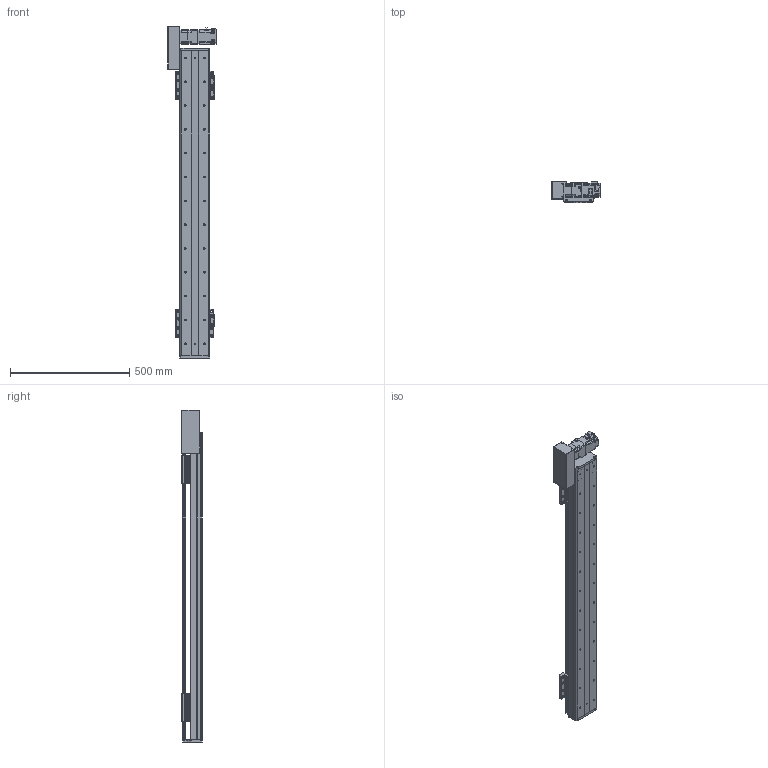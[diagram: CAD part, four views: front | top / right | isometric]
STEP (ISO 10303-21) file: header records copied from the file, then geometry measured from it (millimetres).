
FILE_DESCRIPTION(/* description */ (''),/* implementation_level */ '2;1');
FILE_NAME(/* name */ 'C:\Users\PC\Desktop\3D도면\STEP\DSB125-L2G-W1000-R.stp',/* time_stamp */ '2018-06-13T10:17:10+09:00',/* author */ ('PC'),/* organization */ (''),/* preprocessor_version */ 'ST-DEVELOPER v16.5',/* originating_system */ 'Autodesk Inventor 2017',/* authorisation */ '');
FILE_SCHEMA (('AUTOMOTIVE_DESIGN { 1 0 10303 214 3 1 1 }'));
Length unit declared in the file: millimetre
Products named in the file (12): DSB125-L-300ST; DSR125-BASE(S-TYPE); DSR125-REAR COVER-R01(170203); DSR125-REAR COVER-R01(170203)_1; DSR125-UP COVER-R01(170203); DSR125-TABLE(MSA15X); hg-kr23_; ab0601-p0401200402; 13-BELT COVER; DSR126-SENSOR DOG; pm-y65_step; SENSOR BRACKET(EE-SX674A)
Assembly tree (16 placements, depth 2):
  DSB125-L-300ST
    DSR125-BASE(S-TYPE)
    DSR125-REAR COVER-R01(170203)
    DSR125-REAR COVER-R01(170203)_1
    DSR125-UP COVER-R01(170203)
    DSR125-TABLE(MSA15X)  x2
    hg-kr23_
    ab0601-p0401200402
    13-BELT COVER
    DSR126-SENSOR DOG
    pm-y65_step  x3
    SENSOR BRACKET(EE-SX674A)  x3
Bounding box: 202.1 x 88 x 1394 mm (x, y, z)
Volume: 4819336 mm3; surface area: 1389031.4 mm2
Topology: 17 solids, 22 shells, 1673 faces, 4531 edges, 2988 vertices
Faces by surface type: plane 908, cylinder 637, cone 116, sphere 8, torus 4
Full cylindrical faces by diameter (mm): 2.459 x20, 3.242 x16, 3.5 x6, 4 x1, 4.134 x16, 4.2 x4, 4.3 x1, 4.5 x50, 4.917 x20, 5 x27, 5.3 x1, 5.5 x4, 5.6 x8, 5.8 x4, 5.9 x8, 6 x4, 6.6 x22, 6.647 x26, 7.5 x32, 8.5 x8, 8.7 x1, 11 x22, 14 x1, 16 x2, 17 x1, 20 x1, 47 x1, 50 x3
Entity records: 35590 total; most frequent: CARTESIAN_POINT 6535, DIRECTION 6172, ORIENTED_EDGE 5502, EDGE_CURVE 2756, AXIS2_PLACEMENT_3D 2274, VERTEX_POINT 1965, EDGE_LOOP 1697, LINE 1624
